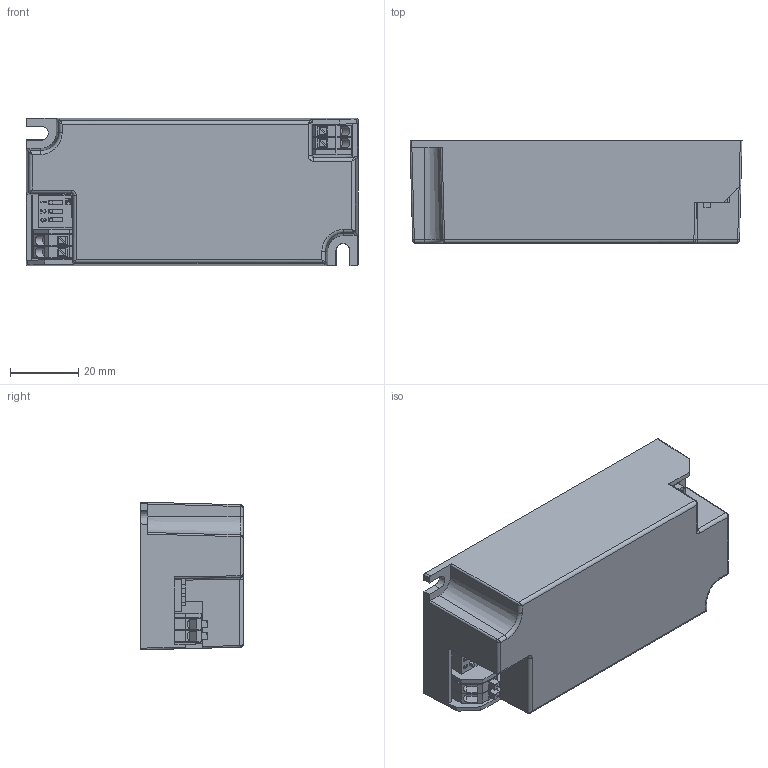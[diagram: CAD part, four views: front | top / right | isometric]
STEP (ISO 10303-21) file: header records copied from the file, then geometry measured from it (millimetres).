
FILE_DESCRIPTION((''),'2;1');
FILE_NAME('KT-099_ASM','2021-06-11T09:26:20',('616179'),(''),'CREO PARAMETRIC BY PTC INC, 2020053','CREO PARAMETRIC BY PTC INC, 2020053','');
FILE_SCHEMA(('CONFIG_CONTROL_DESIGN','SHAPE_APPEARANCE_LAYERS_GROUPS'));
Products named in the file (7): KT-09900; KT-099_SG2; YPCB_02; WAFO_250; KF1001-03P-R0GL-DFT-01B_1LAST_V; YPCB_02_ASM; KT-099_ASM
Assembly tree (7 placements, depth 3):
  KT-099_ASM
    KT-09900
    KT-099_SG2
    YPCB_02_ASM
      YPCB_02
      WAFO_250  x2
      KF1001-03P-R0GL-DFT-01B_1LAST_V
Bounding box: 97.3 x 30.1 x 43.3 mm (x, y, z)
Volume: 28294.7 mm3; surface area: 42211 mm2
Topology: 6 solids, 6 shells, 2566 faces, 7002 edges, 4638 vertices
Faces by surface type: plane 1375, extrusion 1117, cylinder 48, bspline 14, cone 10, torus 2
Entity records: 114515 total; most frequent: CARTESIAN_POINT 25277, ORIENTED_EDGE 13622, PRESENTATION_STYLE_ASSIGNMENT 8550, STYLED_ITEM 8530, DIRECTION 8474, CURVE_STYLE 7365, EDGE_CURVE 6811, VECTOR 5566
